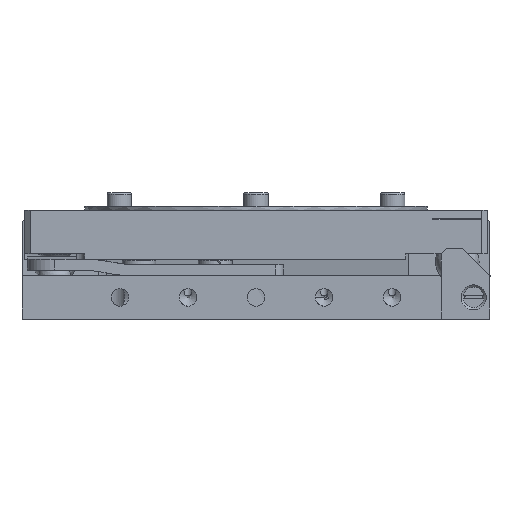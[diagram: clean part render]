
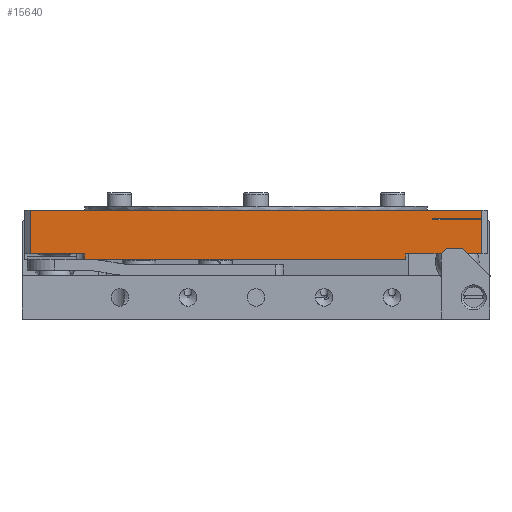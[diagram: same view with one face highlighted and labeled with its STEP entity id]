
A CAD part, front view. The second image highlights one B-rep face of the part: STEP entity #15640.
In plain terms, the highlighted planar face has unit normal (0, -1, 0).
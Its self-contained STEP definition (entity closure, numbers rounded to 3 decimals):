
#369=PLANE('',#16556);
#1052=FACE_OUTER_BOUND('',#1895,.T.);
#1895=EDGE_LOOP('',(#10299,#10300,#10301,#10302,#10303,#10304,#10305,#10306,
#10307,#10308,#10309,#10310,#10311,#10312,#10313,#10314));
#3716=LINE('',#21993,#5015);
#3721=LINE('',#22005,#5020);
#3725=LINE('',#22013,#5024);
#3734=LINE('',#22028,#5033);
#3738=LINE('',#22036,#5037);
#3744=LINE('',#22098,#5043);
#3763=LINE('',#22212,#5062);
#3766=LINE('',#22219,#5065);
#3767=LINE('',#22221,#5066);
#3768=LINE('',#22222,#5067);
#3769=LINE('',#22224,#5068);
#3770=LINE('',#22225,#5069);
#3771=LINE('',#22227,#5070);
#3772=LINE('',#22229,#5071);
#3773=LINE('',#22231,#5072);
#3774=LINE('',#22232,#5073);
#5015=VECTOR('',#17927,10.);
#5020=VECTOR('',#17936,10.);
#5024=VECTOR('',#17942,10.);
#5033=VECTOR('',#17955,10.);
#5037=VECTOR('',#17961,10.);
#5043=VECTOR('',#17995,10.);
#5062=VECTOR('',#18064,10.);
#5065=VECTOR('',#18071,10.);
#5066=VECTOR('',#18072,10.);
#5067=VECTOR('',#18073,10.);
#5068=VECTOR('',#18074,10.);
#5069=VECTOR('',#18075,10.);
#5070=VECTOR('',#18076,10.);
#5071=VECTOR('',#18077,10.);
#5072=VECTOR('',#18078,10.);
#5073=VECTOR('',#18079,10.);
#6335=VERTEX_POINT('',#21985);
#6337=VERTEX_POINT('',#21991);
#6340=VERTEX_POINT('',#22001);
#6342=VERTEX_POINT('',#22004);
#6344=VERTEX_POINT('',#22009);
#6345=VERTEX_POINT('',#22011);
#6352=VERTEX_POINT('',#22034);
#6369=VERTEX_POINT('',#22095);
#6370=VERTEX_POINT('',#22097);
#6404=VERTEX_POINT('',#22210);
#6406=VERTEX_POINT('',#22218);
#6407=VERTEX_POINT('',#22220);
#6408=VERTEX_POINT('',#22223);
#6409=VERTEX_POINT('',#22226);
#6410=VERTEX_POINT('',#22228);
#6411=VERTEX_POINT('',#22230);
#7871=EDGE_CURVE('',#6337,#6335,#3716,.T.);
#7876=EDGE_CURVE('',#6342,#6340,#3721,.T.);
#7880=EDGE_CURVE('',#6344,#6345,#3725,.T.);
#7889=EDGE_CURVE('',#6344,#6340,#3734,.T.);
#7893=EDGE_CURVE('',#6352,#6337,#3738,.T.);
#7910=EDGE_CURVE('',#6370,#6369,#3744,.T.);
#7950=EDGE_CURVE('',#6369,#6404,#3763,.T.);
#7953=EDGE_CURVE('',#6406,#6404,#3766,.T.);
#7954=EDGE_CURVE('',#6406,#6407,#3767,.T.);
#7955=EDGE_CURVE('',#6407,#6342,#3768,.T.);
#7956=EDGE_CURVE('',#6345,#6408,#3769,.T.);
#7957=EDGE_CURVE('',#6335,#6408,#3770,.T.);
#7958=EDGE_CURVE('',#6352,#6409,#3771,.T.);
#7959=EDGE_CURVE('',#6410,#6409,#3772,.T.);
#7960=EDGE_CURVE('',#6410,#6411,#3773,.T.);
#7961=EDGE_CURVE('',#6370,#6411,#3774,.T.);
#10299=ORIENTED_EDGE('',*,*,#7910,.T.);
#10300=ORIENTED_EDGE('',*,*,#7950,.T.);
#10301=ORIENTED_EDGE('',*,*,#7953,.F.);
#10302=ORIENTED_EDGE('',*,*,#7954,.T.);
#10303=ORIENTED_EDGE('',*,*,#7955,.T.);
#10304=ORIENTED_EDGE('',*,*,#7876,.T.);
#10305=ORIENTED_EDGE('',*,*,#7889,.F.);
#10306=ORIENTED_EDGE('',*,*,#7880,.T.);
#10307=ORIENTED_EDGE('',*,*,#7956,.T.);
#10308=ORIENTED_EDGE('',*,*,#7957,.F.);
#10309=ORIENTED_EDGE('',*,*,#7871,.F.);
#10310=ORIENTED_EDGE('',*,*,#7893,.F.);
#10311=ORIENTED_EDGE('',*,*,#7958,.T.);
#10312=ORIENTED_EDGE('',*,*,#7959,.F.);
#10313=ORIENTED_EDGE('',*,*,#7960,.T.);
#10314=ORIENTED_EDGE('',*,*,#7961,.F.);
#15640=ADVANCED_FACE('',(#1052),#369,.T.);
#16556=AXIS2_PLACEMENT_3D('',#22217,#18069,#18070);
#17927=DIRECTION('',(1.,0.,0.));
#17936=DIRECTION('',(0.,0.,-1.));
#17942=DIRECTION('',(0.,0.,1.));
#17955=DIRECTION('',(-1.,0.,0.));
#17961=DIRECTION('',(0.,0.,-1.));
#17995=DIRECTION('',(1.,0.,0.));
#18064=DIRECTION('',(0.,0.,-1.));
#18069=DIRECTION('center_axis',(0.,-1.,0.));
#18070=DIRECTION('ref_axis',(0.,0.,
-1.));
#18071=DIRECTION('',(-1.,0.,0.));
#18072=DIRECTION('',(0.,0.,1.));
#18073=DIRECTION('',(1.,0.,0.));
#18074=DIRECTION('',(1.,0.,0.));
#18075=DIRECTION('',(0.,0.,-1.));
#18076=DIRECTION('',(1.,0.,0.));
#18077=DIRECTION('',(0.,0.,-1.));
#18078=DIRECTION('',(-1.,0.,0.));
#18079=DIRECTION('',(0.,0.,1.));
#21985=CARTESIAN_POINT('',(-67.455,-47.086,-9.827));
#21991=CARTESIAN_POINT('',(-76.455,-47.086,-9.827));
#21993=CARTESIAN_POINT('',(-67.455,-47.086,-9.827));
#22001=CARTESIAN_POINT('',(-73.455,-47.086,-18.227));
#22004=CARTESIAN_POINT('',(-73.455,-47.086,-16.127));
#22005=CARTESIAN_POINT('',(-73.455,-47.086,-13.927));
#22009=CARTESIAN_POINT('',(-70.455,-47.086,-18.227));
#22011=CARTESIAN_POINT('',(-70.455,-47.086,-16.127));
#22013=CARTESIAN_POINT('',(-70.455,-47.086,-12.877));
#22028=CARTESIAN_POINT('',(-67.455,-47.086,-18.227));
#22034=CARTESIAN_POINT('',(-76.455,-47.086,-9.627));
#22036=CARTESIAN_POINT('',(-76.455,-47.086,-16.127));
#22095=CARTESIAN_POINT('',(-140.455,-47.086,-16.127));
#22097=CARTESIAN_POINT('',(-150.455,-47.086,-16.127));
#22098=CARTESIAN_POINT('',(-106.744,-47.086,-16.127));
#22210=CARTESIAN_POINT('',(-140.455,-47.086,-17.127));
#22212=CARTESIAN_POINT('',(-140.455,-47.086,-16.777));
#22217=CARTESIAN_POINT('Origin',(-66.455,-47.086,-16.427));
#22218=CARTESIAN_POINT('',(-81.455,-47.086,-17.127));
#22219=CARTESIAN_POINT('',(-76.455,-47.086,-17.127));
#22220=CARTESIAN_POINT('',(-81.455,-47.086,-16.127));
#22221=CARTESIAN_POINT('',(-81.455,-47.086,-16.777));
#22222=CARTESIAN_POINT('',(-72.01,-47.086,-16.127));
#22223=CARTESIAN_POINT('',(-67.455,-47.086,-16.127));
#22224=CARTESIAN_POINT('',(-67.455,-47.086,-16.127));
#22225=CARTESIAN_POINT('',(-67.455,-47.086,-16.427));
#22226=CARTESIAN_POINT('',(-67.455,-47.086,-9.627));
#22227=CARTESIAN_POINT('',(-69.205,-47.086,-9.627));
#22228=CARTESIAN_POINT('',(-67.455,-47.086,-8.127));
#22229=CARTESIAN_POINT('',(-67.455,-47.086,-16.427));
#22230=CARTESIAN_POINT('',(-150.455,-47.086,-8.127));
#22231=CARTESIAN_POINT('',(-88.681,-47.086,-8.127));
#22232=CARTESIAN_POINT('',(-150.455,-47.086,-16.427));
